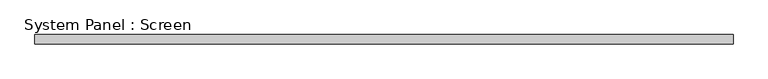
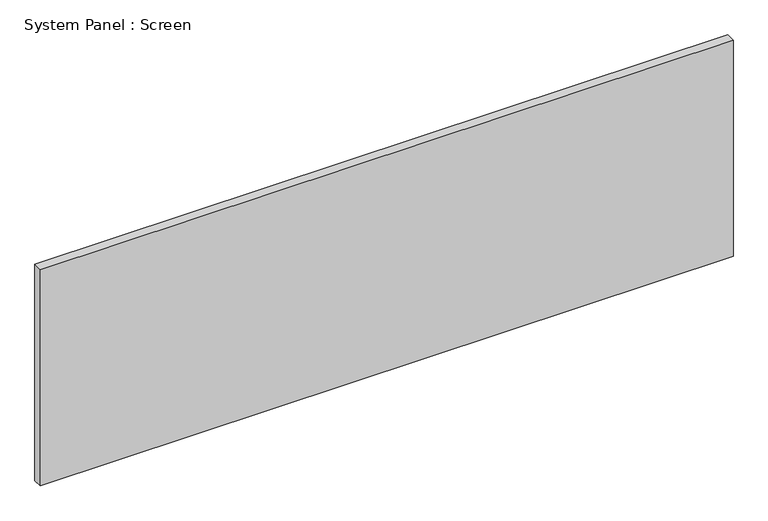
"""IFC4 building model written with IfcOpenShell, lengths in millimetres: plate geometry, System Panel : Screen."""

import ifcopenshell
import ifcopenshell.guid

model = None  # the IFC model being written
_history = None  # IfcOwnerHistory: only IFC2X3 demands one
_inside = {}  # id of a spatial element -> (the spatial element, [elements in it])
_under = {}  # id of a project, library or spatial element -> (it, [spatial elements below it])
_declared = {}  # id of a project -> (the project, [libraries it declares])
_typed = {}  # id of a type object -> (the type object, [elements of that type])
_made_of = {}  # id of a material, layer set ... -> (it, [elements and type objects made of it])


def new_model(schema):
    """Start an empty IFC model of exactly this schema.

    Asked for "IFC4X3", IfcOpenShell would pick the latest addendum, in which some entities
    have other attributes; the version numbers below select the first issue.
    IFC2X3 requires an IfcOwnerHistory on every rooted entity: one is made here for all.
    """
    global model, _history
    if schema == "IFC4X3":
        model = ifcopenshell.file(schema_version=(4, 3, 0, 0))
    else:
        model = ifcopenshell.file(schema=schema)
    _inside.clear()
    _under.clear()
    _declared.clear()
    _typed.clear()
    _made_of.clear()
    _history = None
    if model.schema == "IFC2X3":
        org = make("IfcOrganization", Name="unknown")
        user = make(
            "IfcPersonAndOrganization",
            ThePerson=make("IfcPerson", FamilyName="unknown"),
            TheOrganization=org,
        )
        app = make(
            "IfcApplication",
            ApplicationDeveloper=org,
            Version="unknown",
            ApplicationFullName="unknown",
            ApplicationIdentifier="unknown",
        )
        _history = make(
            "IfcOwnerHistory",
            OwningUser=user,
            OwningApplication=app,
            ChangeAction="ADDED",
            CreationDate=0,
        )
    return model


def make(cls, **values):
    """One entity of the class cls with the attributes given. An attribute that is None is left unset."""
    return model.create_entity(
        cls, **{name: value for name, value in values.items() if value is not None}
    )


def rooted(cls, **values):
    """An entity with a GlobalId (a new one), such as an element, a storey or a relation."""
    return make(cls, GlobalId=ifcopenshell.guid.new(), OwnerHistory=_history, **values)


def si_unit(unit_type, name, prefix=None):
    """IfcSIUnit, for example si_unit("LENGTHUNIT", "METRE", prefix="MILLI")."""
    return make("IfcSIUnit", UnitType=unit_type, Prefix=prefix, Name=name)


def assignment(units):
    """IfcUnitAssignment: the units of a project."""
    return None if units is None else make("IfcUnitAssignment", Units=units)


def point(xyz):
    """IfcCartesianPoint."""
    return None if xyz is None else make("IfcCartesianPoint", Coordinates=xyz)


def direction(xyz):
    """IfcDirection."""
    return None if xyz is None else make("IfcDirection", DirectionRatios=xyz)


def frame(location, z_axis=None, x_axis=None):
    """IfcAxis2Placement3D, a coordinate frame: its origin and axes. An axis left out is left unset."""
    return make(
        "IfcAxis2Placement3D",
        Location=point(location),
        Axis=direction(z_axis),
        RefDirection=direction(x_axis),
    )


def origin():
    """The frame at (0, 0, 0) with its axes left unset."""
    return frame((0.0, 0.0, 0.0))


def origin_with_axes():
    """The frame at (0, 0, 0) with the z axis (0, 0, 1) and the x axis (1, 0, 0) written out."""
    return frame((0.0, 0.0, 0.0), z_axis=(0.0, 0.0, 1.0), x_axis=(1.0, 0.0, 0.0))


def place(relative_to, where):
    """IfcLocalPlacement: puts the frame where relative to a parent placement (None: the world)."""
    return make(
        "IfcLocalPlacement", PlacementRelTo=relative_to, RelativePlacement=where
    )


def context(
    kind, dimensions, precision=None, world=None, true_north=None, identifier=None
):
    """IfcGeometricRepresentationContext, for example the 3D "Model" context."""
    return make(
        "IfcGeometricRepresentationContext",
        ContextIdentifier=identifier,
        ContextType=kind,
        CoordinateSpaceDimension=dimensions,
        Precision=precision,
        WorldCoordinateSystem=world,
        TrueNorth=true_north,
    )


def project(units=None, contexts=None):
    """IfcProject with its units and contexts."""
    return rooted(
        "IfcProject",
        Name="project",
        RepresentationContexts=contexts,
        UnitsInContext=assignment(units),
    )


def spatial(cls, under=None, at=None, **own):
    """A site, building, storey or space (cls), placed at a placement, below another one or the project."""
    s = rooted(cls, ObjectPlacement=at, **own)
    if under is not None:
        _under.setdefault(under.id(), (under, []))[1].append(s)
    return s


def polyline(points):
    """IfcPolyline through the points."""
    return make("IfcPolyline", Points=[point(p) for p in points])


def outline(outer, holes=None, kind="AREA"):
    """IfcArbitraryClosedProfileDef: a profile drawn as a closed curve; with holes, ...WithVoids."""
    if holes is None:
        return make("IfcArbitraryClosedProfileDef", ProfileType=kind, OuterCurve=outer)
    return make(
        "IfcArbitraryProfileDefWithVoids",
        ProfileType=kind,
        OuterCurve=outer,
        InnerCurves=holes,
    )


def extrude(swept, where, along, depth):
    """IfcExtrudedAreaSolid: the profile swept, set in the frame where, extruded along a direction by depth."""
    return make(
        "IfcExtrudedAreaSolid",
        SweptArea=swept,
        Position=where,
        ExtrudedDirection=direction(along),
        Depth=depth,
    )


def shape(context_of_items, identifier, shape_type, items):
    """IfcShapeRepresentation: the items that make up one representation, for example the "Body"."""
    return make(
        "IfcShapeRepresentation",
        ContextOfItems=context_of_items,
        RepresentationIdentifier=identifier,
        RepresentationType=shape_type,
        Items=items,
    )


def source(mapping_origin, context_of_items, identifier, shape_type, items):
    """IfcRepresentationMap: a shape defined once, which mapped items show again and again."""
    return make(
        "IfcRepresentationMap",
        MappingOrigin=mapping_origin,
        MappedRepresentation=shape(context_of_items, identifier, shape_type, items),
    )


def transform(
    local_origin,
    x_axis=None,
    y_axis=None,
    z_axis=None,
    scale=None,
    scale2=None,
    scale3=None,
    uniform=True,
):
    """IfcCartesianTransformationOperator3D, or its non-uniform kind. x_axis, y_axis, z_axis: its Axis1, 2, 3."""
    if uniform:
        return make(
            "IfcCartesianTransformationOperator3D",
            Axis1=direction(x_axis),
            Axis2=direction(y_axis),
            LocalOrigin=point(local_origin),
            Scale=scale,
            Axis3=direction(z_axis),
        )
    return make(
        "IfcCartesianTransformationOperator3DnonUniform",
        Axis1=direction(x_axis),
        Axis2=direction(y_axis),
        LocalOrigin=point(local_origin),
        Scale=scale,
        Axis3=direction(z_axis),
        Scale2=scale2,
        Scale3=scale3,
    )


def mapped(mapping_source, mapping_target):
    """IfcMappedItem: shows the shape of a source again, moved by a transform."""
    return make(
        "IfcMappedItem", MappingSource=mapping_source, MappingTarget=mapping_target
    )


def made_of(thing, what):
    """Note that an element or type object is made of a material, layer set ...; save() writes the relation."""
    if what is not None:
        _made_of.setdefault(what.id(), (what, []))[1].append(thing)
    return thing


def element(
    cls,
    number,
    at=None,
    inside=None,
    cuts=None,
    type_object=None,
    material=None,
    context=None,
    identifier="Body",
    shape_type=None,
    held_by="IfcProductDefinitionShape",
    body=None,
    shapes=None,
    **own,
):
    """One element of the class cls, such as IfcWall. Its Tag is "e" and its number.

    at: its placement. inside: the storey or other place that contains it. cuts: it is an
    opening in that element (IfcRelVoidsElement). A single representation is given by context,
    identifier, shape_type and body (its items); several are given by shapes. held_by: the class
    of the entity that holds the representations. save() writes the other relations.
    """
    e = rooted(cls, Tag="e%d" % number, ObjectPlacement=at, **own)
    if body is not None:
        shapes = [shape(context, identifier, shape_type, body)]
    if shapes is not None:
        e.Representation = make(held_by, Representations=shapes)
    if inside is not None:
        _inside.setdefault(inside.id(), (inside, []))[1].append(e)
    if cuts is not None:
        rooted(
            "IfcRelVoidsElement", RelatingBuildingElement=cuts, RelatedOpeningElement=e
        )
    if type_object is not None:
        _typed.setdefault(type_object.id(), (type_object, []))[1].append(e)
    return made_of(e, material)


def aggregate(whole, parts):
    """IfcRelAggregates: a whole, such as a stair, and the parts it consists of."""
    return rooted("IfcRelAggregates", RelatingObject=whole, RelatedObjects=parts)


def save(model, path):
    """Write the relations noted so far, then the file.

    IfcRelAggregates (storeys below a building ...), IfcRelContainedInSpatialStructure (elements
    in a storey), IfcRelDefinesByType, IfcRelAssociatesMaterial and IfcRelDeclares: one each for
    every whole, place, type object, material and project.
    """
    for whole, parts in _under.values():
        aggregate(whole, parts)
    for where, things in _inside.values():
        rooted(
            "IfcRelContainedInSpatialStructure",
            RelatedElements=things,
            RelatingStructure=where,
        )
    for kind, things in _typed.values():
        rooted("IfcRelDefinesByType", RelatedObjects=things, RelatingType=kind)
    for what, things in _made_of.values():
        rooted("IfcRelAssociatesMaterial", RelatedObjects=things, RelatingMaterial=what)
    for by, libraries in _declared.values():
        rooted("IfcRelDeclares", RelatingContext=by, RelatedDefinitions=libraries)
    model.write(path)


def system_panel_screen_f85f2af3(model_context):
    return source(origin(), model_context, "Body", "SweptSolid", [
        extrude(outline(polyline([(948.4021333, -12.7), (-948.4021333, -12.7), (-948.4021333, 12.7), (948.4021333, 12.7), (948.4021333, -12.7)])), origin_with_axes(), (0.0, 0.0, 1.0), 625.9068),
    ])


if __name__ == "__main__":
    model = new_model("IFC4")
    model_context = context("Model", 3, world=origin())
    ifc_project = project(units=[si_unit("LENGTHUNIT", "METRE", prefix="MILLI")], contexts=[model_context])
    site = spatial("IfcSite", under=ifc_project)
    building = spatial("IfcBuilding", under=site)
    placement = place(None, origin())
    system_panel_screen_shape = system_panel_screen_f85f2af3(model_context)
    element("IfcPlate", 1, ObjectType="System Panel : Screen", at=placement, inside=building, context=model_context, shape_type="MappedRepresentation", body=[
        mapped(system_panel_screen_shape, transform((0.0, 0.0, 0.0), x_axis=(1.0, 0.0, 0.0), y_axis=(0.0, 1.0, 0.0), z_axis=(0.0, 0.0, 1.0))),
    ])
    save(model, "model.ifc")
